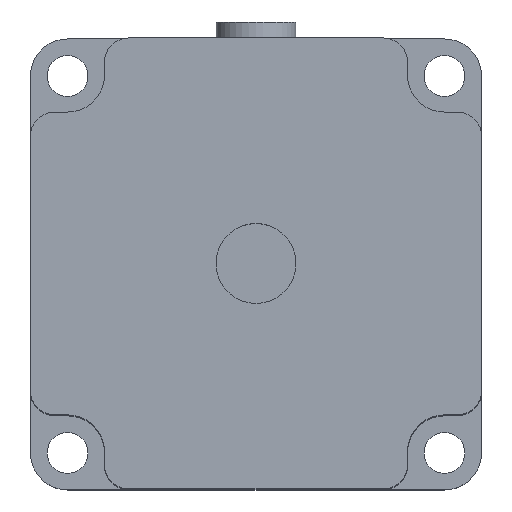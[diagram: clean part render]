
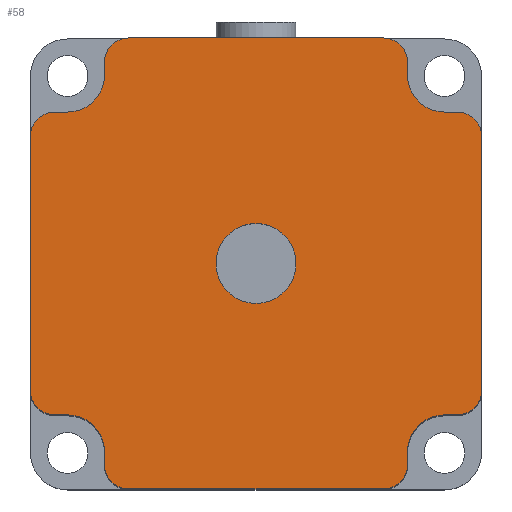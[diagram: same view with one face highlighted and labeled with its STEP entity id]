
A CAD part, top view. The second image highlights one B-rep face of the part: STEP entity #58.
In plain terms, the highlighted planar face has unit normal (0, 0, 1).
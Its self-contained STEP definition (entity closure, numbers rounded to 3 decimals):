
#58=ADVANCED_FACE('',(#4243,#4245),#4247,.T.);
#4243=FACE_BOUND('',#4244,.T.);
#4244=EDGE_LOOP('',(#7486,#7487,#7488,#7489,#7490,#7491,#7492,#7493,#7494,#7495,
#7496,#7497,#7498,#7499,#7500,#7501,#7502,#7503,#7504,#7505,#7506,#7507,#7508,#7509));
#4245=FACE_BOUND('',#4246,.T.);
#4246=EDGE_LOOP('',(#7510));
#4247=PLANE('',#4248);
#4248=AXIS2_PLACEMENT_3D('',#4249,#4250,#4251);
#4249=CARTESIAN_POINT('',(0.,0.,76.));
#4250=DIRECTION('',(0.,0.,1.));
#4251=DIRECTION('',(1.,0.,0.));
#7486=ORIENTED_EDGE('',*,*,#10493,.F.);
#7487=ORIENTED_EDGE('',*,*,#10494,.T.);
#7488=ORIENTED_EDGE('',*,*,#10495,.F.);
#7489=ORIENTED_EDGE('',*,*,#10496,.T.);
#7490=ORIENTED_EDGE('',*,*,#10497,.T.);
#7491=ORIENTED_EDGE('',*,*,#10498,.T.);
#7492=ORIENTED_EDGE('',*,*,#10499,.F.);
#7493=ORIENTED_EDGE('',*,*,#10500,.T.);
#7494=ORIENTED_EDGE('',*,*,#10501,.F.);
#7495=ORIENTED_EDGE('',*,*,#10502,.T.);
#7496=ORIENTED_EDGE('',*,*,#10503,.T.);
#7497=ORIENTED_EDGE('',*,*,#10504,.T.);
#7498=ORIENTED_EDGE('',*,*,#10505,.F.);
#7499=ORIENTED_EDGE('',*,*,#10506,.T.);
#7500=ORIENTED_EDGE('',*,*,#10507,.F.);
#7501=ORIENTED_EDGE('',*,*,#10508,.T.);
#7502=ORIENTED_EDGE('',*,*,#10509,.T.);
#7503=ORIENTED_EDGE('',*,*,#10510,.T.);
#7504=ORIENTED_EDGE('',*,*,#10511,.F.);
#7505=ORIENTED_EDGE('',*,*,#10512,.T.);
#7506=ORIENTED_EDGE('',*,*,#10513,.F.);
#7507=ORIENTED_EDGE('',*,*,#10514,.T.);
#7508=ORIENTED_EDGE('',*,*,#10515,.T.);
#7509=ORIENTED_EDGE('',*,*,#10516,.T.);
#7510=ORIENTED_EDGE('',*,*,#10517,.T.);
#10493=EDGE_CURVE('',#11740,#11741,#11742,.T.);
#10494=EDGE_CURVE('',#11740,#11743,#11744,.T.);
#10495=EDGE_CURVE('',#11745,#11743,#11746,.T.);
#10496=EDGE_CURVE('',#11745,#11747,#11748,.F.);
#10497=EDGE_CURVE('',#11747,#11749,#11750,.F.);
#10498=EDGE_CURVE('',#11749,#11751,#11752,.F.);
#10499=EDGE_CURVE('',#11753,#11751,#11754,.T.);
#10500=EDGE_CURVE('',#11753,#11755,#11756,.T.);
#10501=EDGE_CURVE('',#11757,#11755,#11758,.T.);
#10502=EDGE_CURVE('',#11757,#11759,#11760,.F.);
#10503=EDGE_CURVE('',#11759,#11761,#11762,.F.);
#10504=EDGE_CURVE('',#11761,#11763,#11764,.F.);
#10505=EDGE_CURVE('',#11765,#11763,#11766,.T.);
#10506=EDGE_CURVE('',#11765,#11767,#11768,.T.);
#10507=EDGE_CURVE('',#11769,#11767,#11770,.T.);
#10508=EDGE_CURVE('',#11769,#11771,#11772,.F.);
#10509=EDGE_CURVE('',#11771,#11773,#11774,.F.);
#10510=EDGE_CURVE('',#11773,#11775,#11776,.F.);
#10511=EDGE_CURVE('',#11777,#11775,#11778,.T.);
#10512=EDGE_CURVE('',#11777,#11779,#11780,.T.);
#10513=EDGE_CURVE('',#11781,#11779,#11782,.T.);
#10514=EDGE_CURVE('',#11781,#11783,#11784,.F.);
#10515=EDGE_CURVE('',#11783,#11785,#11786,.F.);
#10516=EDGE_CURVE('',#11785,#11741,#11787,.F.);
#10517=EDGE_CURVE('',#11788,#11788,#11789,.F.);
#11740=VERTEX_POINT('',#13824);
#11741=VERTEX_POINT('',#13825);
#11742=CIRCLE('',#13826,3.);
#11743=VERTEX_POINT('',#13830);
#11744=LINE('',#13831,#13832);
#11745=VERTEX_POINT('',#13834);
#11746=CIRCLE('',#13835,3.);
#11747=VERTEX_POINT('',#13839);
#11748=LINE('',#13840,#13841);
#11749=VERTEX_POINT('',#13843);
#11750=CIRCLE('',#13844,4.63);
#11751=VERTEX_POINT('',#13848);
#11752=LINE('',#13849,#13850);
#11753=VERTEX_POINT('',#13852);
#11754=CIRCLE('',#13853,3.);
#11755=VERTEX_POINT('',#13857);
#11756=LINE('',#13858,#13859);
#11757=VERTEX_POINT('',#13861);
#11758=CIRCLE('',#13862,3.);
#11759=VERTEX_POINT('',#13866);
#11760=LINE('',#13867,#13868);
#11761=VERTEX_POINT('',#13870);
#11762=CIRCLE('',#13871,4.63);
#11763=VERTEX_POINT('',#13875);
#11764=LINE('',#13876,#13877);
#11765=VERTEX_POINT('',#13879);
#11766=CIRCLE('',#13880,3.);
#11767=VERTEX_POINT('',#13884);
#11768=LINE('',#13885,#13886);
#11769=VERTEX_POINT('',#13888);
#11770=CIRCLE('',#13889,3.);
#11771=VERTEX_POINT('',#13893);
#11772=LINE('',#13894,#13895);
#11773=VERTEX_POINT('',#13897);
#11774=CIRCLE('',#13898,4.63);
#11775=VERTEX_POINT('',#13902);
#11776=LINE('',#13903,#13904);
#11777=VERTEX_POINT('',#13906);
#11778=CIRCLE('',#13907,3.);
#11779=VERTEX_POINT('',#13911);
#11780=LINE('',#13912,#13913);
#11781=VERTEX_POINT('',#13915);
#11782=CIRCLE('',#13916,3.);
#11783=VERTEX_POINT('',#13920);
#11784=LINE('',#13921,#13922);
#11785=VERTEX_POINT('',#13924);
#11786=CIRCLE('',#13925,4.63);
#11787=LINE('',#13929,#13930);
#11788=VERTEX_POINT('',#13932);
#11789=CIRCLE('',#13933,5.);
#13824=CARTESIAN_POINT('',(28.2,-15.94,76.));
#13825=CARTESIAN_POINT('',(25.2,-18.94,76.));
#13826=AXIS2_PLACEMENT_3D('',#13827,#13828,#13829);
#13827=CARTESIAN_POINT('',(25.2,-15.94,76.));
#13828=DIRECTION('',(0.,0.,-1.));
#13829=DIRECTION('',(1.,0.,0.));
#13830=CARTESIAN_POINT('',(28.2,15.94,76.));
#13831=CARTESIAN_POINT('',(28.2,-15.94,76.));
#13832=VECTOR('',#13833,1.);
#13833=DIRECTION('',(0.,1.,0.));
#13834=CARTESIAN_POINT('',(25.2,18.94,76.));
#13835=AXIS2_PLACEMENT_3D('',#13836,#13837,#13838);
#13836=CARTESIAN_POINT('',(25.2,15.94,76.));
#13837=DIRECTION('',(0.,0.,-1.));
#13838=DIRECTION('',(0.,1.,0.));
#13839=CARTESIAN_POINT('',(23.57,18.94,76.));
#13840=CARTESIAN_POINT('',(23.57,18.94,76.));
#13841=VECTOR('',#13842,1.);
#13842=DIRECTION('',(1.,0.,0.));
#13843=CARTESIAN_POINT('',(18.94,23.57,76.));
#13844=AXIS2_PLACEMENT_3D('',#13845,#13846,#13847);
#13845=CARTESIAN_POINT('',(23.57,23.57,76.));
#13846=DIRECTION('',(0.,0.,1.));
#13847=DIRECTION('',(-1.,0.,0.));
#13848=CARTESIAN_POINT('',(18.94,25.2,76.));
#13849=CARTESIAN_POINT('',(18.94,25.2,76.));
#13850=VECTOR('',#13851,1.);
#13851=DIRECTION('',(0.,-1.,0.));
#13852=CARTESIAN_POINT('',(15.94,28.2,76.));
#13853=AXIS2_PLACEMENT_3D('',#13854,#13855,#13856);
#13854=CARTESIAN_POINT('',(15.94,25.2,76.));
#13855=DIRECTION('',(0.,0.,-1.));
#13856=DIRECTION('',(0.,1.,0.));
#13857=CARTESIAN_POINT('',(-15.94,28.2,76.));
#13858=CARTESIAN_POINT('',(15.94,28.2,76.));
#13859=VECTOR('',#13860,1.);
#13860=DIRECTION('',(-1.,0.,0.));
#13861=CARTESIAN_POINT('',(-18.94,25.2,76.));
#13862=AXIS2_PLACEMENT_3D('',#13863,#13864,#13865);
#13863=CARTESIAN_POINT('',(-15.94,25.2,76.));
#13864=DIRECTION('',(0.,0.,-1.));
#13865=DIRECTION('',(-1.,0.,0.));
#13866=CARTESIAN_POINT('',(-18.94,23.57,76.));
#13867=CARTESIAN_POINT('',(-18.94,23.57,76.));
#13868=VECTOR('',#13869,1.);
#13869=DIRECTION('',(0.,1.,0.));
#13870=CARTESIAN_POINT('',(-23.57,18.94,76.));
#13871=AXIS2_PLACEMENT_3D('',#13872,#13873,#13874);
#13872=CARTESIAN_POINT('',(-23.57,23.57,76.));
#13873=DIRECTION('',(-0.,0.,1.));
#13874=DIRECTION('',(0.,-1.,0.));
#13875=CARTESIAN_POINT('',(-25.2,18.94,76.));
#13876=CARTESIAN_POINT('',(-25.2,18.94,76.));
#13877=VECTOR('',#13878,1.);
#13878=DIRECTION('',(1.,0.,0.));
#13879=CARTESIAN_POINT('',(-28.2,15.94,76.));
#13880=AXIS2_PLACEMENT_3D('',#13881,#13882,#13883);
#13881=CARTESIAN_POINT('',(-25.2,15.94,76.));
#13882=DIRECTION('',(0.,0.,-1.));
#13883=DIRECTION('',(-1.,0.,0.));
#13884=CARTESIAN_POINT('',(-28.2,-15.94,76.));
#13885=CARTESIAN_POINT('',(-28.2,15.94,76.));
#13886=VECTOR('',#13887,1.);
#13887=DIRECTION('',(0.,-1.,0.));
#13888=CARTESIAN_POINT('',(-25.2,-18.94,76.));
#13889=AXIS2_PLACEMENT_3D('',#13890,#13891,#13892);
#13890=CARTESIAN_POINT('',(-25.2,-15.94,76.));
#13891=DIRECTION('',(0.,0.,-1.));
#13892=DIRECTION('',(0.,-1.,0.));
#13893=CARTESIAN_POINT('',(-23.57,-18.94,76.));
#13894=CARTESIAN_POINT('',(-23.57,-18.94,76.));
#13895=VECTOR('',#13896,1.);
#13896=DIRECTION('',(-1.,0.,0.));
#13897=CARTESIAN_POINT('',(-18.94,-23.57,76.));
#13898=AXIS2_PLACEMENT_3D('',#13899,#13900,#13901);
#13899=CARTESIAN_POINT('',(-23.57,-23.57,76.));
#13900=DIRECTION('',(0.,0.,1.));
#13901=DIRECTION('',(1.,0.,0.));
#13902=CARTESIAN_POINT('',(-18.94,-25.2,76.));
#13903=CARTESIAN_POINT('',(-18.94,-25.2,76.));
#13904=VECTOR('',#13905,1.);
#13905=DIRECTION('',(0.,1.,0.));
#13906=CARTESIAN_POINT('',(-15.94,-28.2,76.));
#13907=AXIS2_PLACEMENT_3D('',#13908,#13909,#13910);
#13908=CARTESIAN_POINT('',(-15.94,-25.2,76.));
#13909=DIRECTION('',(0.,0.,-1.));
#13910=DIRECTION('',(0.,-1.,0.));
#13911=CARTESIAN_POINT('',(15.94,-28.2,76.));
#13912=CARTESIAN_POINT('',(-15.94,-28.2,76.));
#13913=VECTOR('',#13914,1.);
#13914=DIRECTION('',(1.,0.,0.));
#13915=CARTESIAN_POINT('',(18.94,-25.2,76.));
#13916=AXIS2_PLACEMENT_3D('',#13917,#13918,#13919);
#13917=CARTESIAN_POINT('',(15.94,-25.2,76.));
#13918=DIRECTION('',(0.,0.,-1.));
#13919=DIRECTION('',(1.,0.,0.));
#13920=CARTESIAN_POINT('',(18.94,-23.57,76.));
#13921=CARTESIAN_POINT('',(18.94,-23.57,76.));
#13922=VECTOR('',#13923,1.);
#13923=DIRECTION('',(0.,-1.,0.));
#13924=CARTESIAN_POINT('',(23.57,-18.94,76.));
#13925=AXIS2_PLACEMENT_3D('',#13926,#13927,#13928);
#13926=CARTESIAN_POINT('',(23.57,-23.57,76.));
#13927=DIRECTION('',(0.,-0.,1.));
#13928=DIRECTION('',(0.,1.,0.));
#13929=CARTESIAN_POINT('',(25.2,-18.94,76.));
#13930=VECTOR('',#13931,1.);
#13931=DIRECTION('',(-1.,0.,0.));
#13932=CARTESIAN_POINT('',(5.,0.,76.));
#13933=AXIS2_PLACEMENT_3D('',#13934,#13935,#13936);
#13934=CARTESIAN_POINT('',(0.,0.,76.));
#13935=DIRECTION('',(0.,0.,1.));
#13936=DIRECTION('',(1.,0.,0.));
